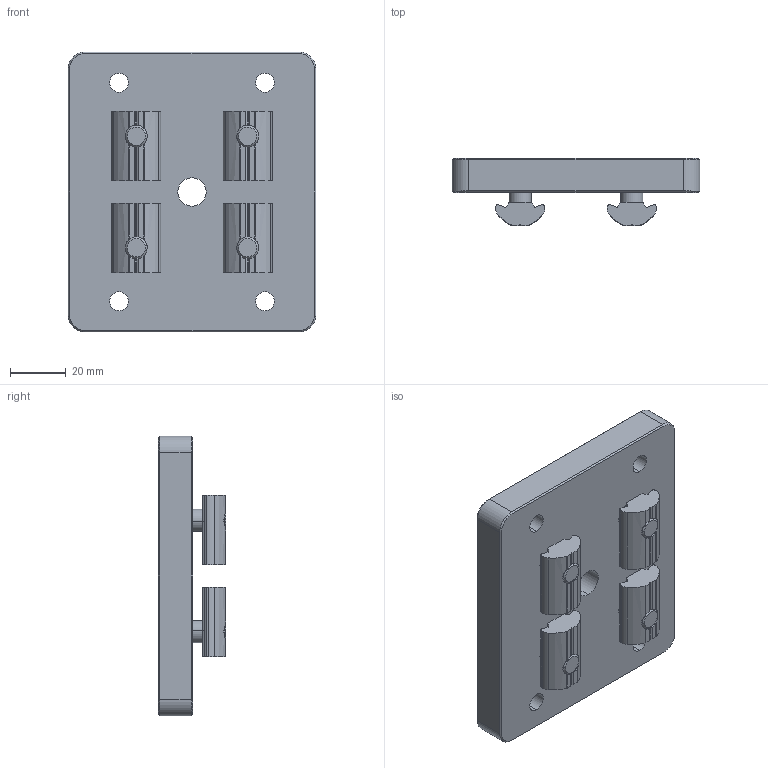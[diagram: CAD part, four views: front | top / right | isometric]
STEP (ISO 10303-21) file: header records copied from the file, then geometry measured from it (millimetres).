
FILE_DESCRIPTION (( 'STEP AP214' ), '1' );
FILE_NAME ('80x80 M12 Stem_HD Plate Caster Profile Mounting Kit C2 (40DCP-0401-010-02).STEP', '2025-06-11T18:24:58', ( '' ), ( '' ), 'SwSTEP 2.0', 'SolidWorks 2020', '' );
FILE_SCHEMA (( 'AUTOMOTIVE_DESIGN' ));
Length unit declared in the file: millimetre
Products named in the file (1): 80x80 M12 Stem_HD Plate Caster Profile Mounting Kit C2 (40DCP-0401-010-02)
Bounding box: 88.9 x 24.22 x 100.5 mm (x, y, z)
Volume: 117301.3 mm3; surface area: 34531.5 mm2
Topology: 9 solids, 9 shells, 358 faces, 894 edges, 554 vertices
Faces by surface type: cylinder 154, plane 138, cone 58, torus 8
Entity records: 11128 total; most frequent: CARTESIAN_POINT 2095, DIRECTION 1866, ORIENTED_EDGE 1772, EDGE_CURVE 886, AXIS2_PLACEMENT_3D 709, VERTEX_POINT 554, VECTOR 448, LINE 448
